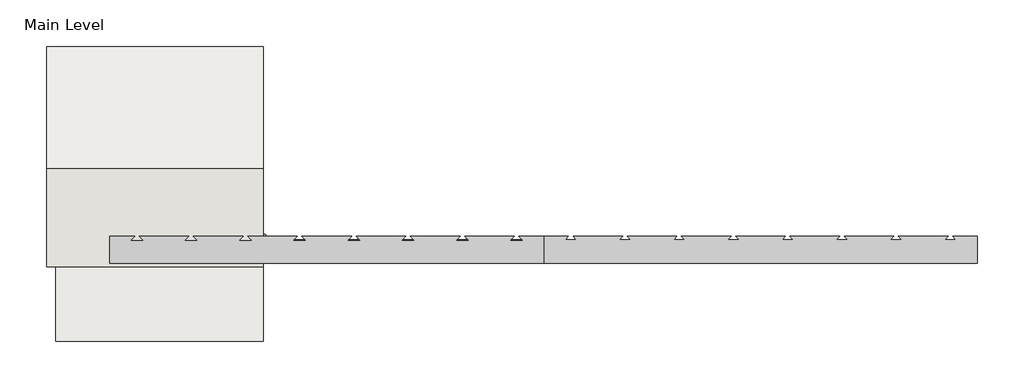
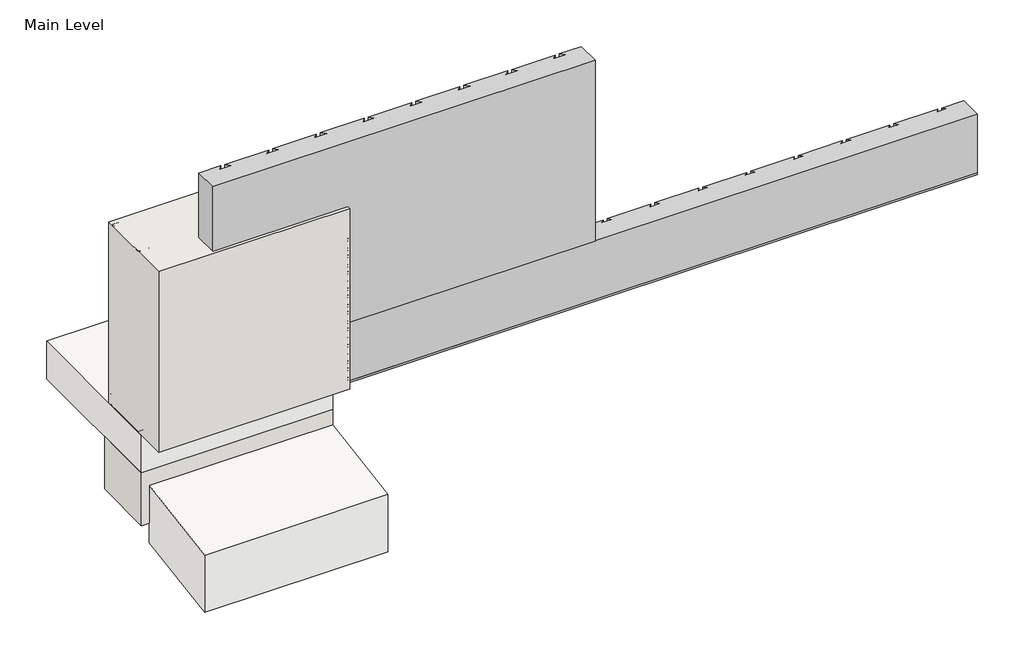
# One storey, incomplete: 12 proxies, 2 slabs, 2 walls.
"""IFC4 building model written with IfcOpenShell, lengths in millimetres."""

from ifc_helpers import new_model, si_unit, frame, origin, origin_with_axes, place, context, project, spatial, polyline, outline, extrude, transform, mapped, element, save
from components import generic_models_31547c53, generic_models_0bbfdc8f, generic_models_1e1ad44f, generic_models_7dd17a53, generic_models_441de798, generic_models_e46152ee, generic_models_9d0e7a2a, proxy_998bcb27, proxy_b027fc18, wood_blocking_c9818c35

model = new_model("IFC4")

# Units and contexts
model_context = context("Model", 3, world=origin())
ifc_project = project(units=[si_unit("LENGTHUNIT", "METRE", prefix="MILLI")], contexts=[model_context])

# Site, building, storey
site = spatial("IfcSite", under=ifc_project)
building = spatial("IfcBuilding", under=site)
storey = spatial("IfcBuildingStorey", under=building, Name="Main Level", Elevation=0.0)

# Proxies
placement = place(None, origin())
generic_models_shape = generic_models_31547c53(model_context)
element("IfcBuildingElementProxy", 1, Name="Durabond Generic Model Sealant Vent : Durabond Generic Model Sealant Vent", ObjectType="Durabond Generic Model Sealant Vent : Durabond Generic Model Sealant Vent", at=placement, inside=storey, context=model_context, shape_type="MappedRepresentation", body=[
    mapped(generic_models_shape, transform((26865.4101773, 546.8432813, 8.5594788), x_axis=(1.0, 0.0, 0.0), y_axis=(0.0, 0.08715574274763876, -0.9961946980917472), z_axis=(0.0, 0.9961946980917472, 0.08715574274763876))),
])
generic_models_2_shape = generic_models_0bbfdc8f(model_context)
generic_models_3_shape = generic_models_1e1ad44f(model_context)
generic_models_4_shape = generic_models_7dd17a53(model_context)
generic_models_5_shape = generic_models_441de798(model_context)
element("IfcBuildingElementProxy", 2, Name="CRAi Generic Model Mesh Piece Face Based : CRAi Generic Model Mesh Piece Face Based", ObjectType="CRAi Generic Model Mesh Piece Face Based : CRAi Generic Model Mesh Piece Face Based", at=placement, inside=storey, context=model_context, shape_type="MappedRepresentation", body=[
    mapped(generic_models_2_shape, transform((26933.6726773, 541.9066297, 261.6963215), x_axis=(-1.0, 0.0, 0.0), y_axis=(0.0, 0.0, -1.0), z_axis=(0.0, -1.0, 0.0))),
    mapped(generic_models_3_shape, transform((26933.6726773, 541.9066297, 261.6963215), x_axis=(-1.0, 0.0, 0.0), y_axis=(0.0, 0.0, -1.0), z_axis=(0.0, -1.0, 0.0))),
    mapped(generic_models_4_shape, transform((26933.6726773, 541.9066297, 261.6963215), x_axis=(-1.0, 0.0, 0.0), y_axis=(0.0, 0.0, -1.0), z_axis=(0.0, -1.0, 0.0))),
    mapped(generic_models_5_shape, transform((26933.6726773, 541.9066297, 261.6963215), x_axis=(-1.0, 0.0, 0.0), y_axis=(0.0, 0.0, -1.0), z_axis=(0.0, -1.0, 0.0))),
])
generic_models_6_shape = generic_models_e46152ee(model_context)
element("IfcBuildingElementProxy", 3, Name="Durabond Generic Model Insulation Adhesive Flat : Durabond Generic Model Insulation Adhesive Flat", ObjectType="Durabond Generic Model Insulation Adhesive Flat : Durabond Generic Model Insulation Adhesive Flat", at=placement, inside=storey, context=model_context, shape_type="MappedRepresentation", body=[
    mapped(generic_models_6_shape, transform((26705.0726773, 627.6316297, 76.2), x_axis=(1.0, 0.0, 0.0), y_axis=(0.0, 1.0, 0.0), z_axis=(0.0, 0.0, 1.0))),
])
element("IfcBuildingElementProxy", 4, Name="Durabond Generic Model Insulation Adhesive Flat : Durabond Generic Model Insulation Adhesive Flat", ObjectType="Durabond Generic Model Insulation Adhesive Flat : Durabond Generic Model Insulation Adhesive Flat", at=placement, inside=storey, context=model_context, shape_type="MappedRepresentation", body=[
    mapped(generic_models_6_shape, transform((26781.2726773, 627.6316297, 76.2), x_axis=(1.0, 0.0, 0.0), y_axis=(0.0, 1.0, 0.0), z_axis=(0.0, 0.0, 1.0))),
])
element("IfcBuildingElementProxy", 5, Name="Durabond Generic Model Insulation Adhesive Flat : Durabond Generic Model Insulation Adhesive Flat", ObjectType="Durabond Generic Model Insulation Adhesive Flat : Durabond Generic Model Insulation Adhesive Flat", at=placement, inside=storey, context=model_context, shape_type="MappedRepresentation", body=[
    mapped(generic_models_6_shape, transform((26857.4726773, 627.6316297, 76.2), x_axis=(1.0, 0.0, 0.0), y_axis=(0.0, 1.0, 0.0), z_axis=(0.0, 0.0, 1.0))),
])
element("IfcBuildingElementProxy", 6, Name="Durabond Generic Model Insulation Adhesive Flat : Durabond Generic Model Insulation Adhesive Flat", ObjectType="Durabond Generic Model Insulation Adhesive Flat : Durabond Generic Model Insulation Adhesive Flat", at=placement, inside=storey, context=model_context, shape_type="MappedRepresentation", body=[
    mapped(generic_models_6_shape, transform((26933.6726773, 627.6316297, 76.2), x_axis=(1.0, 0.0, 0.0), y_axis=(0.0, 1.0, 0.0), z_axis=(0.0, 0.0, 1.0))),
])
element("IfcBuildingElementProxy", 7, Name="Durabond Generic Model Insulation Adhesive Flat : Durabond Generic Model Insulation Adhesive Flat", ObjectType="Durabond Generic Model Insulation Adhesive Flat : Durabond Generic Model Insulation Adhesive Flat", at=placement, inside=storey, context=model_context, shape_type="MappedRepresentation", body=[
    mapped(generic_models_6_shape, transform((27009.8726773, 627.6316297, 76.2), x_axis=(1.0, 0.0, 0.0), y_axis=(0.0, 1.0, 0.0), z_axis=(0.0, 0.0, 1.0))),
])
element("IfcBuildingElementProxy", 8, Name="Durabond Generic Model Insulation Adhesive Flat : Durabond Generic Model Insulation Adhesive Flat", ObjectType="Durabond Generic Model Insulation Adhesive Flat : Durabond Generic Model Insulation Adhesive Flat", at=placement, inside=storey, context=model_context, shape_type="MappedRepresentation", body=[
    mapped(generic_models_6_shape, transform((27086.0726773, 627.6316297, 76.2), x_axis=(1.0, 0.0, 0.0), y_axis=(0.0, 1.0, 0.0), z_axis=(0.0, 0.0, 1.0))),
])
generic_models_7_shape = generic_models_9d0e7a2a(model_context)
element("IfcBuildingElementProxy", 9, Name="CRAi Generic Model Metal Stud Array : CRAi Generic Model Metal Stud Array", ObjectType="CRAi Generic Model Metal Stud Array : CRAi Generic Model Metal Stud Array", at=placement, inside=storey, context=model_context, shape_type="MappedRepresentation", body=[
    mapped(generic_models_7_shape, transform((26692.3726773, 726.0566297, 6.35), x_axis=(-1.0, 0.0, 0.0), y_axis=(0.0, -1.0, 0.0), z_axis=(0.0, 0.0, 1.0))),
])
proxy_shape = proxy_998bcb27(model_context)
element("IfcBuildingElementProxy", 10, Name="Durabond Generic Model Flexlite Insulation Board : 3\"", ObjectType="Durabond Generic Model Flexlite Insulation Board : 3\"", at=placement, inside=storey, context=model_context, shape_type="MappedRepresentation", body=[
    mapped(proxy_shape, transform((27276.5726773, 624.4566297, 523.392643), x_axis=(1.0, 0.0, 0.0), y_axis=(0.0, 0.0, 1.0), z_axis=(0.0, -1.0, 0.0))),
])
proxy_2_shape = proxy_b027fc18(model_context)
element("IfcBuildingElementProxy", 11, Name="Durabond Generic Model Flexlite Vent Board : 3\"", ObjectType="Durabond Generic Model Flexlite Vent Board : 3\"", at=placement, inside=storey, context=model_context, shape_type="MappedRepresentation", body=[
    mapped(proxy_2_shape, transform((27886.1726773, 624.4566297, 116.992643), x_axis=(1.0, 0.0, 0.0), y_axis=(0.0, 0.0, 1.0), z_axis=(0.0, -1.0, 0.0))),
])
wood_blocking_shape = wood_blocking_c9818c35(model_context)
element("IfcBuildingElementProxy", 12, Name="CRAi Generic Model Line Based Metal Framing Track : Wood Blocking", ObjectType="CRAi Generic Model Line Based Metal Framing Track : Wood Blocking", at=placement, inside=storey, context=model_context, shape_type="MappedRepresentation", body=[
    mapped(wood_blocking_shape, transform((26489.1726773, 649.8566297, 0.0), x_axis=(1.0, 0.0, 0.0), y_axis=(0.0, 1.0, 0.0), z_axis=(0.0, 0.0, 1.0))),
])

# Slabs
element("IfcSlab", 13, ObjectType="Durabond Floor Concrete 5\"", at=placement, inside=storey, context=model_context, shape_type="SweptSolid", body=[
    extrude(outline(polyline([(27098.7726773, 633.9816297), (26489.1726773, 633.9816297), (26489.1726773, 1157.8566297), (27098.7726773, 1157.8566297), (27098.7726773, 633.9816297)])), frame((0.0, 0.0, -127.0), z_axis=(0.0, 0.0, 1.0), x_axis=(1.0, 0.0, 0.0)), (0.0, 0.0, 1.0), 127.0),
])
element("IfcSlab", 14, ObjectType="dIRT", at=placement, inside=storey, context=model_context, shape_type="SweptSolid", body=[
    extrude(outline(polyline([(633.9816297, -370.9277103), (329.1816297, -421.7277103), (329.1816297, -228.6), (633.9816297, -177.8), (633.9816297, -370.9277103)])), frame((26514.5726773, 0.0, 0.0), z_axis=(1.0, 0.0, 0.0), x_axis=(0.0, 1.0, 0.0)), (0.0, 0.0, 1.0), 584.2),
])

# Walls
element("IfcWall", 15, ObjectType="189mm (7.5”) EIFS Field Applied on Mtl. Stud Layer - 50mm Grooved Insulation Board Metal Stud Wall (AirStop)", at=placement, inside=storey, context=model_context, shape_type="SweptSolid", body=[
    extrude(outline(polyline([(27098.7726773, 538.7316297), (26489.1726773, 538.7316297), (26489.1726773, 814.9566297), (27098.7726773, 814.9566297), (27098.7726773, 538.7316297)])), origin_with_axes(), (0.0, 0.0, 1.0), 609.6),
])
element("IfcWall", 16, ObjectType="CRAi Generic 8\"", at=placement, inside=storey, context=model_context, shape_type="SweptSolid", body=[
    extrude(outline(polyline([(27098.7726773, 633.9816297), (26489.1726773, 633.9816297), (26489.1726773, 837.1816297), (27098.7726773, 837.1816297), (27098.7726773, 633.9816297)])), frame((0.0, 0.0, -304.8), z_axis=(0.0, 0.0, 1.0), x_axis=(1.0, 0.0, 0.0)), (0.0, 0.0, 1.0), 177.8),
])

save(model, "model.ifc")
